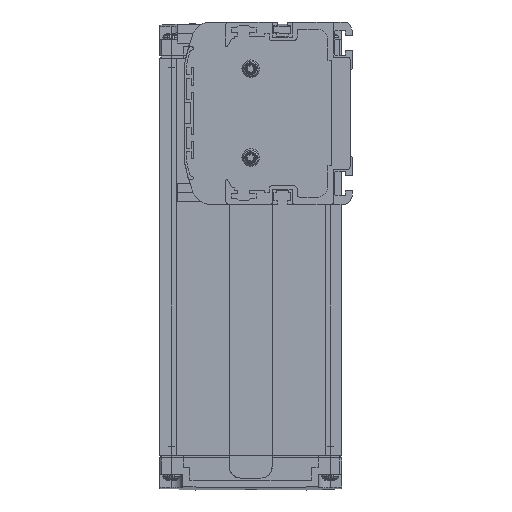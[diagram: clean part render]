
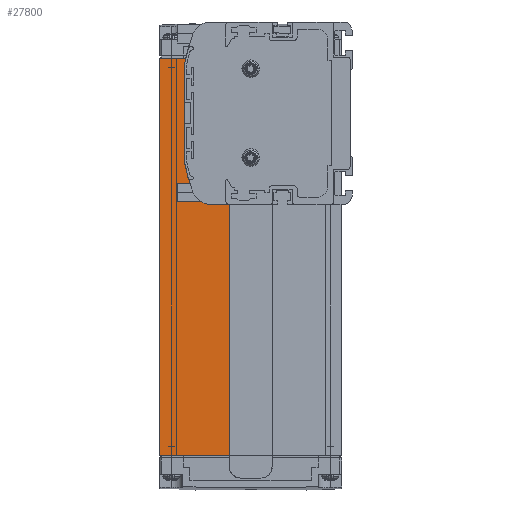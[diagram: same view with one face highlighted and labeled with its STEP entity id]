
A CAD part, left-side view. The second image highlights one B-rep face of the part: STEP entity #27800.
In plain terms, the highlighted planar face has unit normal (-1, 0, 0).
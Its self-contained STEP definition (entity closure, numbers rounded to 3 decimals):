
#4213=DIRECTION('',(0.,-1.,0.));
#4214=VECTOR('',#4213,8.155);
#4215=CARTESIAN_POINT('',(3.,60.755,-39.));
#4216=LINE('',#4215,#4214);
#4251=DIRECTION('',(0.,-1.,0.));
#4252=VECTOR('',#4251,29.9);
#4253=CARTESIAN_POINT('',(3.,82.5,-146.5));
#4254=LINE('',#4253,#4252);
#4255=DIRECTION('',(0.,1.,0.));
#4256=VECTOR('',#4255,11.203);
#4257=CARTESIAN_POINT('',(3.,71.297,23.5));
#4258=LINE('',#4257,#4256);
#4275=DIRECTION('',(0.,0.,1.));
#4276=VECTOR('',#4275,107.5);
#4277=CARTESIAN_POINT('',(3.,52.6,-146.5));
#4278=LINE('',#4277,#4276);
#4279=DIRECTION('',(0.,1.,0.));
#4280=VECTOR('',#4279,0.209);
#4281=CARTESIAN_POINT('',(3.,70.291,-27.5));
#4282=LINE('',#4281,#4280);
#4303=DIRECTION('',(0.,0.,1.));
#4304=VECTOR('',#4303,0.762);
#4305=CARTESIAN_POINT('',(3.,70.5,-27.5));
#4306=LINE('',#4305,#4304);
#10047=CARTESIAN_POINT('',(3.,-6.765,6.));
#10048=DIRECTION('',(1.,0.,0.));
#10049=DIRECTION('',(0.,0.984,0.177));
#10050=AXIS2_PLACEMENT_3D('',#10047,#10048,#10049);
#10052=CARTESIAN_POINT('',(3.,70.,19.823));
#10053=DIRECTION('',(1.,0.,0.));
#10054=DIRECTION('',(0.,1.,0.));
#10055=AXIS2_PLACEMENT_3D('',#10052,#10053,#10054);
#10061=DIRECTION('',(0.,0.,1.));
#10062=VECTOR('',#10061,39.645);
#10063=CARTESIAN_POINT('',(3.,72.,-19.823));
#10064=LINE('',#10063,#10062);
#10069=CARTESIAN_POINT('',(3.,70.,-19.823));
#10070=DIRECTION('',(-1.,0.,0.));
#10071=DIRECTION('',(0.,1.,0.));
#10072=AXIS2_PLACEMENT_3D('',#10069,#10070,#10071);
#10082=CARTESIAN_POINT('',(3.,-6.765,-6.));
#10083=DIRECTION('',(1.,0.,0.));
#10084=DIRECTION('',(0.,0.938,-0.347));
#10085=AXIS2_PLACEMENT_3D('',#10082,#10083,#10084);
#10087=CARTESIAN_POINT('',(3.,-6.765,-6.));
#10088=DIRECTION('',(1.,0.,0.));
#10089=DIRECTION('',(0.,0.966,-0.259));
#10090=AXIS2_PLACEMENT_3D('',#10087,#10088,#10089);
#10096=CARTESIAN_POINT('',(3.,60.755,-31.));
#10097=DIRECTION('',(1.,0.,0.));
#10098=DIRECTION('',(0.,0.,-1.));
#10099=AXIS2_PLACEMENT_3D('',#10096,#10097,#10098);
#12586=DIRECTION('',(0.,0.,1.));
#12587=VECTOR('',#12586,170.);
#12588=CARTESIAN_POINT('',(3.,82.5,-146.5));
#12589=LINE('',#12588,#12587);
#17770=CARTESIAN_POINT('',(3.,82.5,23.5));
#17771=VERTEX_POINT('',#17770);
#17816=CARTESIAN_POINT('',(3.,82.5,-146.5));
#17817=VERTEX_POINT('',#17816);
#17818=CARTESIAN_POINT('',(3.,52.6,-146.5));
#17819=VERTEX_POINT('',#17818);
#17848=CARTESIAN_POINT('',(3.,70.5,-27.5));
#17850=VERTEX_POINT('',#17848);
#21891=CARTESIAN_POINT('',(3.,60.755,-39.));
#21892=CARTESIAN_POINT('',(3.,52.6,-39.));
#21893=VERTEX_POINT('',#21891);
#21894=VERTEX_POINT('',#21892);
#21895=CARTESIAN_POINT('',(3.,71.297,23.5));
#21897=VERTEX_POINT('',#21895);
#21905=CARTESIAN_POINT('',(3.,70.5,-26.738));
#21906=VERTEX_POINT('',#21905);
#21909=CARTESIAN_POINT('',(3.,70.291,-27.5));
#21911=VERTEX_POINT('',#21909);
#21921=CARTESIAN_POINT('',(3.,72.,19.823));
#21922=CARTESIAN_POINT('',(3.,71.968,20.177));
#21923=VERTEX_POINT('',#21921);
#21924=VERTEX_POINT('',#21922);
#21937=CARTESIAN_POINT('',(3.,68.257,-33.778));
#21938=VERTEX_POINT('',#21937);
#21939=CARTESIAN_POINT('',(3.,71.968,-20.177));
#21940=VERTEX_POINT('',#21939);
#21941=CARTESIAN_POINT('',(3.,72.,-19.823));
#21942=VERTEX_POINT('',#21941);
#27766=CARTESIAN_POINT('',(3.,67.55,-61.5));
#27767=DIRECTION('',(1.,0.,0.));
#27768=DIRECTION('',(0.,1.,0.));
#27769=AXIS2_PLACEMENT_3D('',#27766,#27767,#27768);
#27770=PLANE('',#27769);
#27771=ORIENTED_EDGE('',*,*,#27734,.T.);
#27773=ORIENTED_EDGE('',*,*,#27772,.F.);
#27775=ORIENTED_EDGE('',*,*,#27774,.F.);
#27777=ORIENTED_EDGE('',*,*,#27776,.T.);
#27779=ORIENTED_EDGE('',*,*,#27778,.F.);
#27781=ORIENTED_EDGE('',*,*,#27780,.F.);
#27783=ORIENTED_EDGE('',*,*,#27782,.F.);
#27785=ORIENTED_EDGE('',*,*,#27784,.F.);
#27787=ORIENTED_EDGE('',*,*,#27786,.T.);
#27789=ORIENTED_EDGE('',*,*,#27788,.F.);
#27791=ORIENTED_EDGE('',*,*,#27790,.F.);
#27793=ORIENTED_EDGE('',*,*,#27792,.F.);
#27795=ORIENTED_EDGE('',*,*,#27794,.F.);
#27797=ORIENTED_EDGE('',*,*,#27796,.F.);
#27798=EDGE_LOOP('',(#27771,#27773,#27775,#27777,#27779,#27781,#27783,#27785,
#27787,#27789,#27791,#27793,#27795,#27797));
#27799=FACE_OUTER_BOUND('',#27798,.F.);
#27800=ADVANCED_FACE('',(#27799),#27770,.F.);
#10051=CIRCLE('',#10050,80.);
#10056=CIRCLE('',#10055,2.);
#10073=CIRCLE('',#10072,2.);
#10086=CIRCLE('',#10085,80.);
#10091=CIRCLE('',#10090,80.);
#10100=CIRCLE('',#10099,8.);
#27734=EDGE_CURVE('',#21893,#21894,#4216,.T.);
#27772=EDGE_CURVE('',#17819,#21894,#4278,.T.);
#27774=EDGE_CURVE('',#17817,#17819,#4254,.T.);
#27776=EDGE_CURVE('',#17817,#17771,#12589,.T.);
#27778=EDGE_CURVE('',#21897,#17771,#4258,.T.);
#27780=EDGE_CURVE('',#21924,#21897,#10051,.T.);
#27782=EDGE_CURVE('',#21923,#21924,#10056,.T.);
#27784=EDGE_CURVE('',#21942,#21923,#10064,.T.);
#27786=EDGE_CURVE('',#21942,#21940,#10073,.T.);
#27788=EDGE_CURVE('',#21906,#21940,#10091,.T.);
#27790=EDGE_CURVE('',#17850,#21906,#4306,.T.);
#27792=EDGE_CURVE('',#21911,#17850,#4282,.T.);
#27794=EDGE_CURVE('',#21938,#21911,#10086,.T.);
#27796=EDGE_CURVE('',#21893,#21938,#10100,.T.);
